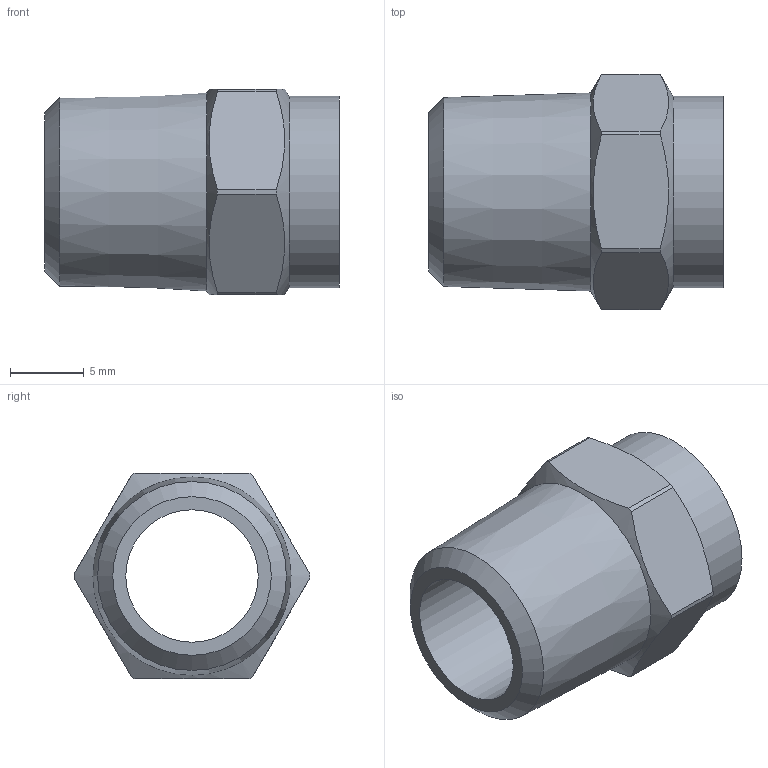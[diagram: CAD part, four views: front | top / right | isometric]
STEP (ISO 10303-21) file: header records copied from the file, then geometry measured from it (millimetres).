
FILE_DESCRIPTION((''),'2;1');
FILE_NAME('\\Lg50001\Groups\SANHA Legnica\Engineering\Public\RYSUNKI\SANHA POLSKA\4243G\step\14243_10-14(3).stp','2008-08-20T09:59:47',('pajchrowski'),(''),'Autodesk Inventor 2008','Autodesk Inventor 2008','');
FILE_SCHEMA(('AUTOMOTIVE_DESIGN { 1 0 10303 214 1 1 1 1 }'));
Length unit declared in the file: millimetre
Products named in the file (1): 14243_10-14(3)
Bounding box: 20 x 16 x 14 mm (x, y, z)
Volume: 1462.1 mm3; surface area: 1595.4 mm2
Topology: 1 solids, 1 shells, 22 faces, 54 edges, 35 vertices
Faces by surface type: plane 9, cylinder 9, cone 4
Full cylindrical faces by diameter (mm): 9 x1, 10 x1, 13 x1
Entity records: 620 total; most frequent: CARTESIAN_POINT 125, DIRECTION 100, ORIENTED_EDGE 90, EDGE_CURVE 45, AXIS2_PLACEMENT_3D 44, VERTEX_POINT 33, EDGE_LOOP 32, FACE_OUTER_BOUND 22
